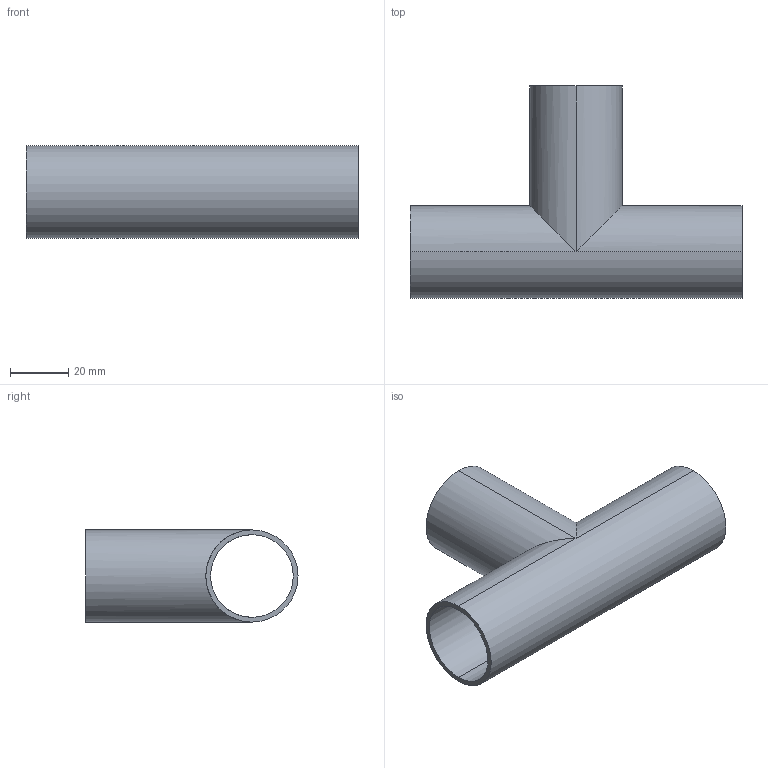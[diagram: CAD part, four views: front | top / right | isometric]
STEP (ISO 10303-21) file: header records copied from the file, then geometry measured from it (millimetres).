
FILE_DESCRIPTION (( 'STEP AP203' ), '1' );
FILE_NAME ('V7W1.25.STEP', '2018-05-11T15:20:11', ( 'vneprd' ), ( 'Microsoft' ), 'SwSTEP 2.0', 'SolidWorks 2014', '' );
FILE_SCHEMA (( 'CONFIG_CONTROL_DESIGN' ));
Length unit declared in the file: inch
Products named in the file (1): V7W1.25
Bounding box: 114.3 x 73.03 x 31.75 mm (x, y, z)
Volume: 23771.7 mm3; surface area: 29257.9 mm2
Topology: 1 solids, 1 shells, 13 faces, 28 edges, 16 vertices
Faces by surface type: cylinder 10, plane 3
Entity records: 437 total; most frequent: CARTESIAN_POINT 70, DIRECTION 64, ORIENTED_EDGE 56, EDGE_CURVE 28, AXIS2_PLACEMENT_3D 26, VERTEX_POINT 16, EDGE_LOOP 16, ADVANCED_FACE 13
